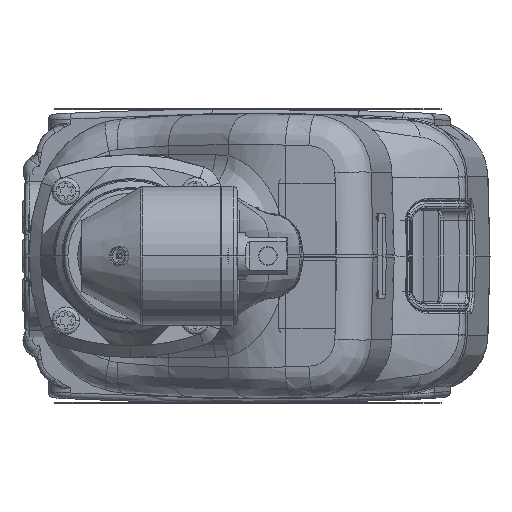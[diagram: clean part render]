
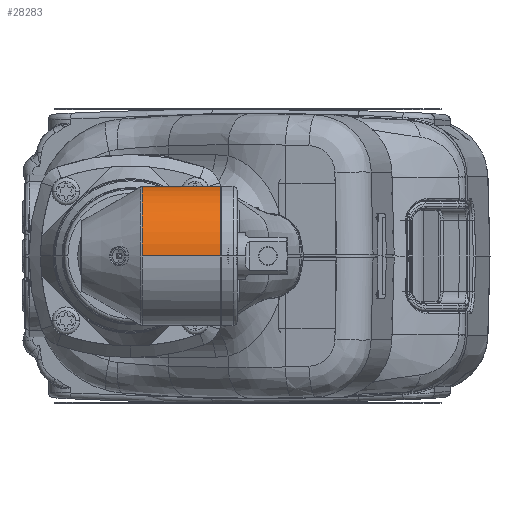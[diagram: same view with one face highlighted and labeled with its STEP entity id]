
A CAD part, left-side view. The second image highlights one B-rep face of the part: STEP entity #28283.
In plain terms, the highlighted cylindrical face has radius 17.78 mm (diameter 35.56 mm), a partial arc.
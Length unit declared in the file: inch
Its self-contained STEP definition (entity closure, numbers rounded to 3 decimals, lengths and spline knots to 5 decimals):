
#328 = CARTESIAN_POINT ( 'NONE',  ( -6.86893, -0.1167, 0.53795 ) ) ;
#2490 = B_SPLINE_CURVE_WITH_KNOTS ( 'NONE', 3,
 ( #142344, #123799, #68821, #198132, #87403, #216707, #106053, #235223, #124615, #13914, #143159, #32553, #161742, #51118, #180325, #69601, #198931, #88218, #217503, #106839, #236027, #125412, #14727, #143972, #33341, #162567 ),
 .UNSPECIFIED., .F., .F.,
 ( 4, 2, 2, 2, 2, 2, 2, 2, 2, 2, 2, 2, 4 ),
 ( 0.02114, 0.02245, 0.02377, 0.02641, 0.02772, 0.02904, 0.03036, 0.03168, 0.03431, 0.03694, 0.03826, 0.03958, 0.04221 ),
 .UNSPECIFIED. ) ;
#4083 = EDGE_LOOP ( 'NONE', ( #102478, #44183, #104372, #49846, #50112, #111412 ) ) ;
#5114 = VERTEX_POINT ( 'NONE', #119323 ) ;
#13914 = CARTESIAN_POINT ( 'NONE',  ( -6.66537, -0.52046, 0.25645 ) ) ;
#13934 = AXIS2_PLACEMENT_3D ( 'NONE', #107952, #33637, #237132 ) ;
#13963 = VERTEX_POINT ( 'NONE', #149602 ) ;
#14727 = CARTESIAN_POINT ( 'NONE',  ( -6.83019, -0.22341, 0.50318 ) ) ;
#17517 = DIRECTION ( 'NONE',  ( 0., -1., 0. ) ) ;
#19048 = AXIS2_PLACEMENT_3D ( 'NONE', #181812, #71127, #200445 ) ;
#28283 = ADVANCED_FACE ( 'NONE', ( #221863 ), #149576, .T. ) ;
#28511 = CARTESIAN_POINT ( 'NONE',  ( -6.87503, -0.11804, 0.54298 ) ) ;
#29947 = DIRECTION ( 'NONE',  ( 0., -1., 0. ) ) ;
#32553 = CARTESIAN_POINT ( 'NONE',  ( -6.68276, -0.49451, 0.29681 ) ) ;
#33341 = CARTESIAN_POINT ( 'NONE',  ( -6.8565, -0.14628, 0.52738 ) ) ;
#33637 = DIRECTION ( 'NONE',  ( 0., -1., 0. ) ) ;
#36715 = CARTESIAN_POINT ( 'NONE',  ( -6.86353, -0.11299, 0.53336 ) ) ;
#44183 = ORIENTED_EDGE ( 'NONE', *, *, #175489, .T. ) ;
#48445 = VERTEX_POINT ( 'NONE', #68083 ) ;
#49846 = ORIENTED_EDGE ( 'NONE', *, *, #54293, .F. ) ;
#50112 = ORIENTED_EDGE ( 'NONE', *, *, #148118, .T. ) ;
#50767 = CARTESIAN_POINT ( 'NONE',  ( -6.61688, 0.6, 0. ) ) ;
#51118 = CARTESIAN_POINT ( 'NONE',  ( -6.70176, -0.46536, 0.3344 ) ) ;
#54293 = EDGE_CURVE ( 'NONE', #230396, #48445, #211519, .T. ) ;
#61096 = CARTESIAN_POINT ( 'NONE',  ( -8.01688, -0.11804, 0. ) ) ;
#68083 = CARTESIAN_POINT ( 'NONE',  ( -6.61688, -0.905, 0. ) ) ;
#68821 = CARTESIAN_POINT ( 'NONE',  ( -6.61752, -0.58912, 0.03438 ) ) ;
#69601 = CARTESIAN_POINT ( 'NONE',  ( -6.72885, -0.42231, 0.3807 ) ) ;
#71127 = DIRECTION ( 'NONE',  ( 0., 1., 0. ) ) ;
#83129 = CARTESIAN_POINT ( 'NONE',  ( -6.61688, -0.59, 0. ) ) ;
#87403 = CARTESIAN_POINT ( 'NONE',  ( -6.62193, -0.58292, 0.08559 ) ) ;
#88218 = CARTESIAN_POINT ( 'NONE',  ( -6.77087, -0.34972, 0.43866 ) ) ;
#96686 = CIRCLE ( 'NONE', #19048, 0.7 ) ;
#101494 = AXIS2_PLACEMENT_3D ( 'NONE', #128184, #17517, #146771 ) ;
#102478 = ORIENTED_EDGE ( 'NONE', *, *, #219790, .T. ) ;
#104372 = ORIENTED_EDGE ( 'NONE', *, *, #228413, .T. ) ;
#105230 = LINE ( 'NONE', #138179, #203481 ) ;
#106053 = CARTESIAN_POINT ( 'NONE',  ( -6.63635, -0.56257, 0.16704 ) ) ;
#106839 = CARTESIAN_POINT ( 'NONE',  ( -6.80509, -0.28177, 0.47768 ) ) ;
#107952 = CARTESIAN_POINT ( 'NONE',  ( -7.31688, 0.6, 0. ) ) ;
#107992 = EDGE_CURVE ( 'NONE', #5114, #13963, #125973, .T. ) ;
#111412 = ORIENTED_EDGE ( 'NONE', *, *, #107992, .T. ) ;
#119323 = CARTESIAN_POINT ( 'NONE',  ( -6.86353, -0.11299, 0.53336 ) ) ;
#123799 = CARTESIAN_POINT ( 'NONE',  ( -6.61688, -0.59, 0.0172 ) ) ;
#124615 = CARTESIAN_POINT ( 'NONE',  ( -6.65483, -0.5359, 0.22787 ) ) ;
#125412 = CARTESIAN_POINT ( 'NONE',  ( -6.82422, -0.23827, 0.49736 ) ) ;
#125973 = B_SPLINE_CURVE_WITH_KNOTS ( 'NONE', 3,
 ( #36715, #328, #28511, #157736 ),
 .UNSPECIFIED., .F., .F.,
 ( 4, 4 ),
 ( 0., 0.0006 ),
 .UNSPECIFIED. ) ;
#128184 = CARTESIAN_POINT ( 'NONE',  ( -7.31688, -0.11804, 0. ) ) ;
#134421 = CIRCLE ( 'NONE', #101494, 0.7 ) ;
#138179 = CARTESIAN_POINT ( 'NONE',  ( -8.01688, 0.6, 0. ) ) ;
#139743 = VERTEX_POINT ( 'NONE', #61096 ) ;
#142344 = CARTESIAN_POINT ( 'NONE',  ( -6.61688, -0.59, 0. ) ) ;
#143159 = CARTESIAN_POINT ( 'NONE',  ( -6.67098, -0.51217, 0.27022 ) ) ;
#143972 = CARTESIAN_POINT ( 'NONE',  ( -6.8469, -0.17788, 0.51899 ) ) ;
#144749 = VERTEX_POINT ( 'NONE', #202876 ) ;
#146771 = DIRECTION ( 'NONE',  ( 1., 0., 0. ) ) ;
#148118 = EDGE_CURVE ( 'NONE', #230396, #5114, #2490, .T. ) ;
#149576 = CYLINDRICAL_SURFACE ( 'NONE', #13934, 0.7 ) ;
#149602 = CARTESIAN_POINT ( 'NONE',  ( -6.88126, -0.11804, 0.54793 ) ) ;
#156624 = VECTOR ( 'NONE', #161396, 39.37008 ) ;
#157736 = CARTESIAN_POINT ( 'NONE',  ( -6.88126, -0.11804, 0.54793 ) ) ;
#161396 = DIRECTION ( 'NONE',  ( 0., -1., 0. ) ) ;
#161742 = CARTESIAN_POINT ( 'NONE',  ( -6.68893, -0.48514, 0.30964 ) ) ;
#162567 = CARTESIAN_POINT ( 'NONE',  ( -6.86353, -0.11299, 0.53336 ) ) ;
#175489 = EDGE_CURVE ( 'NONE', #139743, #144749, #105230, .T. ) ;
#180325 = CARTESIAN_POINT ( 'NONE',  ( -6.70845, -0.45491, 0.34639 ) ) ;
#181812 = CARTESIAN_POINT ( 'NONE',  ( -7.31688, -0.905, 0. ) ) ;
#198132 = CARTESIAN_POINT ( 'NONE',  ( -6.62005, -0.58557, 0.06867 ) ) ;
#198931 = CARTESIAN_POINT ( 'NONE',  ( -6.74287, -0.39909, 0.40131 ) ) ;
#200445 = DIRECTION ( 'NONE',  ( -1., 0., 0. ) ) ;
#202876 = CARTESIAN_POINT ( 'NONE',  ( -8.01688, -0.905, 0. ) ) ;
#203481 = VECTOR ( 'NONE', #29947, 39.37008 ) ;
#211519 = LINE ( 'NONE', #50767, #156624 ) ;
#216707 = CARTESIAN_POINT ( 'NONE',  ( -6.62925, -0.57261, 0.13523 ) ) ;
#217503 = CARTESIAN_POINT ( 'NONE',  ( -6.78488, -0.32356, 0.45538 ) ) ;
#219790 = EDGE_CURVE ( 'NONE', #13963, #139743, #134421, .T. ) ;
#221863 = FACE_OUTER_BOUND ( 'NONE', #4083, .T. ) ;
#228413 = EDGE_CURVE ( 'NONE', #144749, #48445, #96686, .T. ) ;
#230396 = VERTEX_POINT ( 'NONE', #83129 ) ;
#235223 = CARTESIAN_POINT ( 'NONE',  ( -6.64989, -0.54308, 0.21301 ) ) ;
#236027 = CARTESIAN_POINT ( 'NONE',  ( -6.81169, -0.26742, 0.48462 ) ) ;
#237132 = DIRECTION ( 'NONE',  ( 1., 0., 0. ) ) ;
